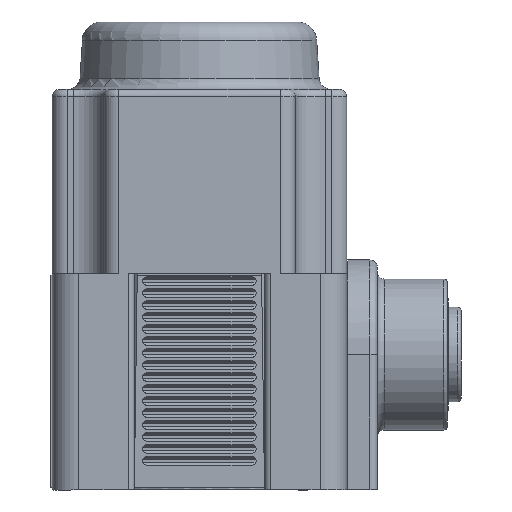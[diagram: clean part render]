
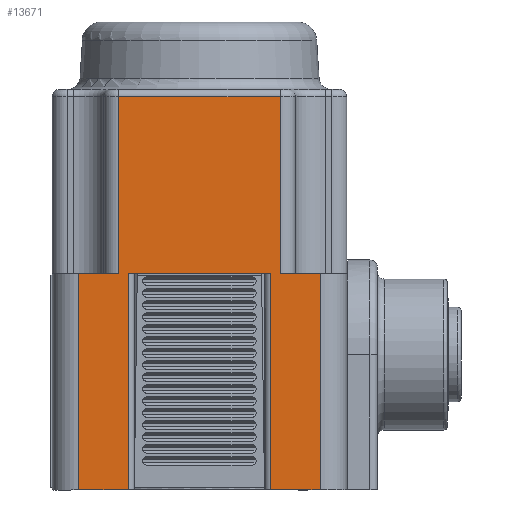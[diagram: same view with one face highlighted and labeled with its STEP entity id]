
A CAD part, left-side view. The second image highlights one B-rep face of the part: STEP entity #13671.
In plain terms, the highlighted planar face has unit normal (-1, 0, 0).
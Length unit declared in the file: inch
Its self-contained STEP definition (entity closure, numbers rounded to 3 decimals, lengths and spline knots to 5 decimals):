
#1594=LINE('',#23418,#2518);
#1607=LINE('',#23488,#2531);
#1730=LINE('',#25076,#2654);
#1748=LINE('',#25136,#2672);
#1749=LINE('',#25140,#2673);
#1752=LINE('',#25159,#2676);
#1765=LINE('',#25228,#2689);
#1766=LINE('',#25232,#2690);
#1767=LINE('',#25233,#2691);
#1768=LINE('',#25235,#2692);
#1769=LINE('',#25237,#2693);
#1770=LINE('',#25238,#2694);
#2518=VECTOR('',#18184,0.3937);
#2531=VECTOR('',#18267,0.3937);
#2654=VECTOR('',#18588,0.3937);
#2672=VECTOR('',#18660,0.3937);
#2673=VECTOR('',#18665,0.3937);
#2676=VECTOR('',#18686,0.3937);
#2689=VECTOR('',#18777,0.3937);
#2690=VECTOR('',#18782,0.3937);
#2691=VECTOR('',#18783,0.3937);
#2692=VECTOR('',#18784,0.3937);
#2693=VECTOR('',#18785,0.3937);
#2694=VECTOR('',#18786,0.3937);
#3504=FACE_OUTER_BOUND('',#4325,.T.);
#4325=EDGE_LOOP('',(#11709,#11710,#11711,#11712,#11713,#11714,#11715,#11716,
#11717,#11718,#11719,#11720));
#5900=VERTEX_POINT('',#23410);
#5902=VERTEX_POINT('',#23416);
#5924=VERTEX_POINT('',#23486);
#6060=VERTEX_POINT('',#25073);
#6061=VERTEX_POINT('',#25075);
#6076=VERTEX_POINT('',#25135);
#6077=VERTEX_POINT('',#25139);
#6084=VERTEX_POINT('',#25157);
#6101=VERTEX_POINT('',#25227);
#6102=VERTEX_POINT('',#25231);
#6103=VERTEX_POINT('',#25234);
#6104=VERTEX_POINT('',#25236);
#7672=EDGE_CURVE('',#5902,#5900,#1594,.T.);
#7708=EDGE_CURVE('',#5924,#5902,#1607,.T.);
#7917=EDGE_CURVE('',#6061,#6060,#1730,.T.);
#7947=EDGE_CURVE('',#6076,#5900,#1748,.T.);
#7949=EDGE_CURVE('',#6077,#6076,#1749,.T.);
#7959=EDGE_CURVE('',#5924,#6084,#1752,.T.);
#7993=EDGE_CURVE('',#6101,#6061,#1765,.T.);
#7995=EDGE_CURVE('',#6102,#6084,#1766,.T.);
#7996=EDGE_CURVE('',#6101,#6102,#1767,.T.);
#7997=EDGE_CURVE('',#6103,#6060,#1768,.T.);
#7998=EDGE_CURVE('',#6103,#6104,#1769,.T.);
#7999=EDGE_CURVE('',#6104,#6077,#1770,.T.);
#11709=ORIENTED_EDGE('',*,*,#7672,.F.);
#11710=ORIENTED_EDGE('',*,*,#7708,.F.);
#11711=ORIENTED_EDGE('',*,*,#7959,.T.);
#11712=ORIENTED_EDGE('',*,*,#7995,.F.);
#11713=ORIENTED_EDGE('',*,*,#7996,.F.);
#11714=ORIENTED_EDGE('',*,*,#7993,.T.);
#11715=ORIENTED_EDGE('',*,*,#7917,.T.);
#11716=ORIENTED_EDGE('',*,*,#7997,.F.);
#11717=ORIENTED_EDGE('',*,*,#7998,.T.);
#11718=ORIENTED_EDGE('',*,*,#7999,.T.);
#11719=ORIENTED_EDGE('',*,*,#7949,.T.);
#11720=ORIENTED_EDGE('',*,*,#7947,.T.);
#12217=PLANE('',#15083);
#13671=ADVANCED_FACE('',(#3504),#12217,.T.);
#15083=AXIS2_PLACEMENT_3D('',#25230,#18780,#18781);
#18184=DIRECTION('',(0.,-1.,0.));
#18267=DIRECTION('',(0.,0.,1.));
#18588=DIRECTION('',(0.,-1.,0.));
#18660=DIRECTION('',(0.,0.,1.));
#18665=DIRECTION('',(0.,1.,0.));
#18686=DIRECTION('',(0.,1.,0.));
#18777=DIRECTION('',(0.,0.,1.));
#18780=DIRECTION('center_axis',(-1.,0.,0.));
#18781=DIRECTION('ref_axis',(0.,0.,1.));
#18782=DIRECTION('',(0.,0.,1.));
#18783=DIRECTION('',(0.,1.,0.));
#18784=DIRECTION('',(0.,0.,1.));
#18785=DIRECTION('',(0.,-1.,0.));
#18786=DIRECTION('',(0.,0.,1.));
#23410=CARTESIAN_POINT('',(-1.13879,-0.13023,0.65855));
#23416=CARTESIAN_POINT('',(-1.13879,0.53777,0.65855));
#23418=CARTESIAN_POINT('',(-1.13879,0.53777,0.65855));
#23486=CARTESIAN_POINT('',(-1.13879,0.53777,-0.07345));
#23488=CARTESIAN_POINT('',(-1.13879,0.53777,-0.07345));
#25073=CARTESIAN_POINT('',(-1.13879,-0.09023,-0.07345));
#25075=CARTESIAN_POINT('',(-1.13879,0.49777,-0.07345));
#25076=CARTESIAN_POINT('',(-1.13879,0.49777,-0.07345));
#25135=CARTESIAN_POINT('',(-1.13879,-0.13023,-0.07345));
#25136=CARTESIAN_POINT('',(-1.13879,-0.13023,-0.07345));
#25139=CARTESIAN_POINT('',(-1.13879,-0.29523,-0.07345));
#25140=CARTESIAN_POINT('',(-1.13879,-0.29523,-0.07345));
#25157=CARTESIAN_POINT('',(-1.13879,0.70277,-0.07345));
#25159=CARTESIAN_POINT('',(-1.13879,0.53777,-0.07345));
#25227=CARTESIAN_POINT('',(-1.13879,0.49777,-0.96745));
#25228=CARTESIAN_POINT('',(-1.13879,0.49777,-0.96745));
#25230=CARTESIAN_POINT('Origin',(-1.13879,-0.29563,-0.15445));
#25231=CARTESIAN_POINT('',(-1.13879,0.70277,-0.96745));
#25232=CARTESIAN_POINT('',(-1.13879,0.70277,-0.96745));
#25233=CARTESIAN_POINT('',(-1.13879,0.49777,-0.96745));
#25234=CARTESIAN_POINT('',(-1.13879,-0.09023,-0.96745));
#25235=CARTESIAN_POINT('',(-1.13879,-0.09023,-0.96745));
#25236=CARTESIAN_POINT('',(-1.13879,-0.29523,-0.96745));
#25237=CARTESIAN_POINT('',(-1.13879,-0.09023,-0.96745));
#25238=CARTESIAN_POINT('',(-1.13879,-0.29523,-0.96745));
